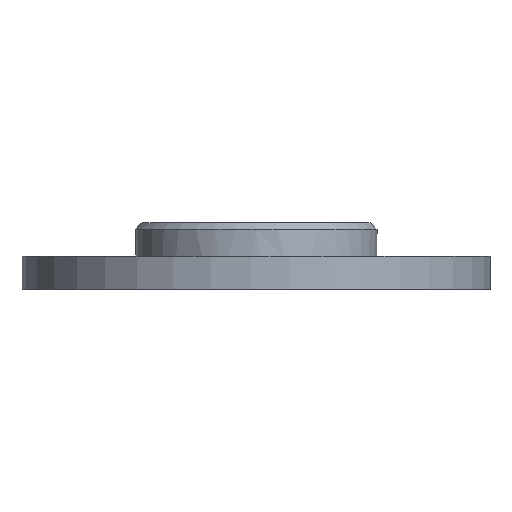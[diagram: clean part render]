
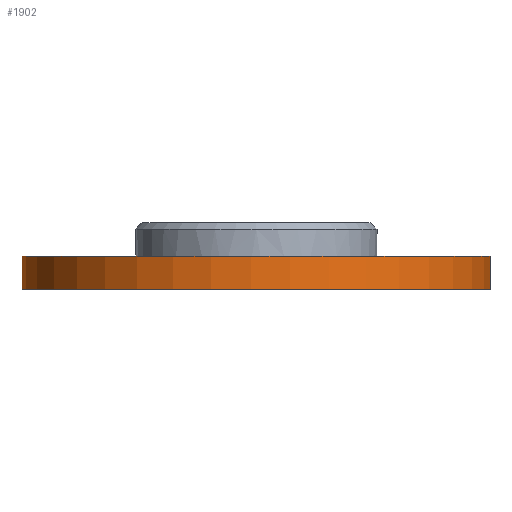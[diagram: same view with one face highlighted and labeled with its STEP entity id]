
A CAD part, left-side view. The second image highlights one B-rep face of the part: STEP entity #1902.
In plain terms, the highlighted cylindrical face has radius 35 mm (diameter 70 mm), a partial arc.
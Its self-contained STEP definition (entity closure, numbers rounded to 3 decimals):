
#195=LINE('',#3249,#347);
#196=LINE('',#3253,#348);
#347=VECTOR('',#2687,10.);
#348=VECTOR('',#2692,10.);
#434=CYLINDRICAL_SURFACE('',#2125,35.);
#587=FACE_OUTER_BOUND('',#700,.T.);
#700=EDGE_LOOP('',(#1713,#1714,#1715,#1716));
#754=CIRCLE('',#1951,35.);
#854=CIRCLE('',#2126,35.);
#910=VERTEX_POINT('',#2850);
#911=VERTEX_POINT('',#2852);
#1034=VERTEX_POINT('',#3247);
#1035=VERTEX_POINT('',#3251);
#1090=EDGE_CURVE('',#910,#911,#754,.T.);
#1289=EDGE_CURVE('',#1034,#911,#195,.T.);
#1290=EDGE_CURVE('',#1035,#1034,#854,.T.);
#1291=EDGE_CURVE('',#1035,#910,#196,.T.);
#1713=ORIENTED_EDGE('',*,*,#1290,.T.);
#1714=ORIENTED_EDGE('',*,*,#1289,.T.);
#1715=ORIENTED_EDGE('',*,*,#1090,.F.);
#1716=ORIENTED_EDGE('',*,*,#1291,.F.);
#1902=ADVANCED_FACE('',(#587),#434,.T.);
#1951=AXIS2_PLACEMENT_3D('',#2853,#2240,#2241);
#2125=AXIS2_PLACEMENT_3D('',#3250,#2688,#2689);
#2126=AXIS2_PLACEMENT_3D('',#3252,#2690,#2691);
#2240=DIRECTION('center_axis',(0.,0.,1.));
#2241=DIRECTION('ref_axis',(0.741,0.672,0.));
#2687=DIRECTION('',(0.,0.,1.));
#2688=DIRECTION('center_axis',(0.,0.,1.));
#2689=DIRECTION('ref_axis',(0.741,0.672,0.));
#2690=DIRECTION('center_axis',(0.,0.,1.));
#2691=DIRECTION('ref_axis',(0.741,0.672,0.));
#2692=DIRECTION('',(0.,0.,1.));
#2850=CARTESIAN_POINT('',(25.92,23.519,33.));
#2852=CARTESIAN_POINT('',(9.547,-33.673,33.));
#2853=CARTESIAN_POINT('Origin',(0.,0.,33.));
#3247=CARTESIAN_POINT('',(9.547,-33.673,28.));
#3249=CARTESIAN_POINT('',(9.547,-33.673,28.));
#3250=CARTESIAN_POINT('Origin',(0.,0.,28.));
#3251=CARTESIAN_POINT('',(25.92,23.519,28.));
#3252=CARTESIAN_POINT('Origin',(0.,0.,28.));
#3253=CARTESIAN_POINT('',(25.92,23.519,28.));
